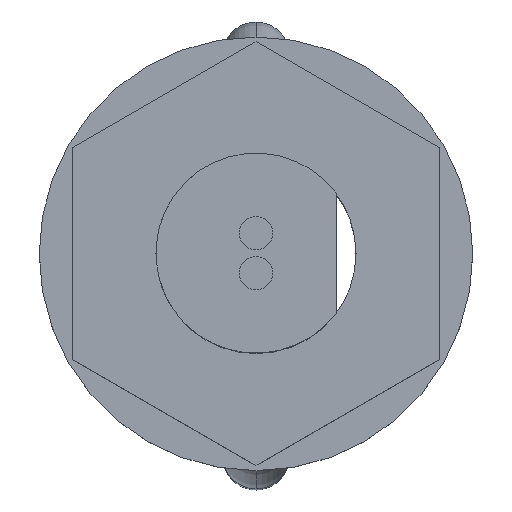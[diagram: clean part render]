
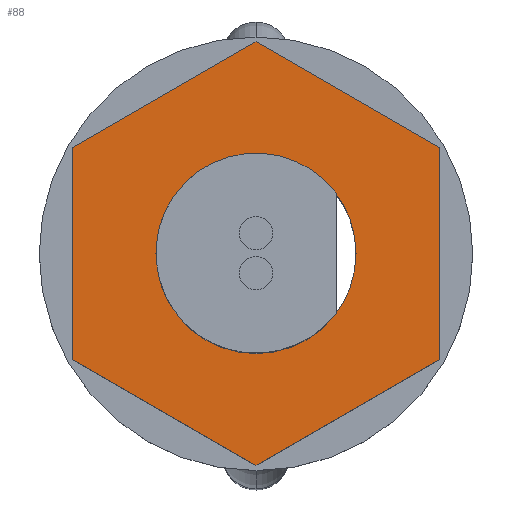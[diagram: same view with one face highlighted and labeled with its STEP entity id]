
A CAD part, top view. The second image highlights one B-rep face of the part: STEP entity #88.
In plain terms, the highlighted planar face has unit normal (0, 0, 1) as drawn and (-1, 0, 0) by its records, which use the part's own axes.
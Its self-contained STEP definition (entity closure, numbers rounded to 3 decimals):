
#74 = VERTEX_POINT ( 'NONE', #701 ) ;
#78 = EDGE_CURVE ( 'NONE', #83, #74, #694, .T. ) ;
#83 = VERTEX_POINT ( 'NONE', #684 ) ;
#87 = EDGE_LOOP ( 'NONE', ( #91, #90, #485, #488, #491, #494 ) ) ;
#88 = ADVANCED_FACE ( 'NONE', ( #745, #744 ), #743, .F. ) ;
#90 = ORIENTED_EDGE ( 'NONE', *, *, #483, .T. ) ;
#91 = ORIENTED_EDGE ( 'NONE', *, *, #94, .T. ) ;
#94 = EDGE_CURVE ( 'NONE', #95, #137, #729, .T. ) ;
#95 = VERTEX_POINT ( 'NONE', #725 ) ;
#137 = VERTEX_POINT ( 'NONE', #849 ) ;
#483 = EDGE_CURVE ( 'NONE', #137, #484, #1432, .T. ) ;
#484 = VERTEX_POINT ( 'NONE', #1428 ) ;
#485 = ORIENTED_EDGE ( 'NONE', *, *, #486, .T. ) ;
#486 = EDGE_CURVE ( 'NONE', #484, #487, #1427, .T. ) ;
#487 = VERTEX_POINT ( 'NONE', #1423 ) ;
#488 = ORIENTED_EDGE ( 'NONE', *, *, #489, .T. ) ;
#489 = EDGE_CURVE ( 'NONE', #487, #490, #1422, .T. ) ;
#490 = VERTEX_POINT ( 'NONE', #1418 ) ;
#491 = ORIENTED_EDGE ( 'NONE', *, *, #492, .T. ) ;
#492 = EDGE_CURVE ( 'NONE', #490, #493, #1417, .T. ) ;
#493 = VERTEX_POINT ( 'NONE', #1413 ) ;
#494 = ORIENTED_EDGE ( 'NONE', *, *, #495, .T. ) ;
#495 = EDGE_CURVE ( 'NONE', #493, #95, #1412, .T. ) ;
#496 = EDGE_LOOP ( 'NONE', ( #497, #552 ) ) ;
#497 = ORIENTED_EDGE ( 'NONE', *, *, #78, .F. ) ;
#552 = ORIENTED_EDGE ( 'NONE', *, *, #553, .F. ) ;
#553 = EDGE_CURVE ( 'NONE', #74, #83, #1516, .T. ) ;
#684 = CARTESIAN_POINT ( 'NONE',  ( 3.5, 1.5, 0. ) ) ;
#686 = DIRECTION ( 'NONE',  ( 0., -1., 0. ) ) ;
#687 = DIRECTION ( 'NONE',  ( -1., 0., 0. ) ) ;
#688 = CARTESIAN_POINT ( 'NONE',  ( 3.5, 0., 0. ) ) ;
#689 = AXIS2_PLACEMENT_3D ( 'NONE', #688, #687, #686 ) ;
#694 = CIRCLE ( 'NONE', #689, 1.5 ) ;
#701 = CARTESIAN_POINT ( 'NONE',  ( 3.5, -1.5, 0. ) ) ;
#725 = CARTESIAN_POINT ( 'NONE',  ( 3.5, 1.588, 2.75 ) ) ;
#726 = DIRECTION ( 'NONE',  ( 0., 0.5, -0.866 ) ) ;
#727 = VECTOR ( 'NONE', #726, 1000. ) ;
#728 = CARTESIAN_POINT ( 'NONE',  ( 3.5, 1.588, 2.75 ) ) ;
#729 = LINE ( 'NONE', #728, #727 ) ;
#739 = DIRECTION ( 'NONE',  ( 0., 1., 0. ) ) ;
#740 = DIRECTION ( 'NONE',  ( 1., 0., 0. ) ) ;
#741 = CARTESIAN_POINT ( 'NONE',  ( 3.5, 0., 5.5 ) ) ;
#742 = AXIS2_PLACEMENT_3D ( 'NONE', #741, #740, #739 ) ;
#743 = PLANE ( 'NONE',  #742 ) ;
#744 = FACE_BOUND ( 'NONE', #496, .T. ) ;
#745 = FACE_OUTER_BOUND ( 'NONE', #87, .T. ) ;
#849 = CARTESIAN_POINT ( 'NONE',  ( 3.5, 3.175, 0. ) ) ;
#1409 = DIRECTION ( 'NONE',  ( 0., 1., 0. ) ) ;
#1410 = VECTOR ( 'NONE', #1409, 1000. ) ;
#1411 = CARTESIAN_POINT ( 'NONE',  ( 3.5, -1.588, 2.75 ) ) ;
#1412 = LINE ( 'NONE', #1411, #1410 ) ;
#1413 = CARTESIAN_POINT ( 'NONE',  ( 3.5, -1.588, 2.75 ) ) ;
#1414 = DIRECTION ( 'NONE',  ( 0., 0.5, 0.866 ) ) ;
#1415 = VECTOR ( 'NONE', #1414, 1000. ) ;
#1416 = CARTESIAN_POINT ( 'NONE',  ( 3.5, -3.175, 0. ) ) ;
#1417 = LINE ( 'NONE', #1416, #1415 ) ;
#1418 = CARTESIAN_POINT ( 'NONE',  ( 3.5, -3.175, 0. ) ) ;
#1419 = DIRECTION ( 'NONE',  ( 0., -0.5, 0.866 ) ) ;
#1420 = VECTOR ( 'NONE', #1419, 1000. ) ;
#1421 = CARTESIAN_POINT ( 'NONE',  ( 3.5, -1.588, -2.75 ) ) ;
#1422 = LINE ( 'NONE', #1421, #1420 ) ;
#1423 = CARTESIAN_POINT ( 'NONE',  ( 3.5, -1.588, -2.75 ) ) ;
#1424 = DIRECTION ( 'NONE',  ( 0., -1., 0. ) ) ;
#1425 = VECTOR ( 'NONE', #1424, 1000. ) ;
#1426 = CARTESIAN_POINT ( 'NONE',  ( 3.5, 1.588, -2.75 ) ) ;
#1427 = LINE ( 'NONE', #1426, #1425 ) ;
#1428 = CARTESIAN_POINT ( 'NONE',  ( 3.5, 1.588, -2.75 ) ) ;
#1429 = DIRECTION ( 'NONE',  ( 0., -0.5, -0.866 ) ) ;
#1430 = VECTOR ( 'NONE', #1429, 1000. ) ;
#1431 = CARTESIAN_POINT ( 'NONE',  ( 3.5, 3.175, 0. ) ) ;
#1432 = LINE ( 'NONE', #1431, #1430 ) ;
#1512 = DIRECTION ( 'NONE',  ( 0., -1., 0. ) ) ;
#1513 = DIRECTION ( 'NONE',  ( -1., 0., 0. ) ) ;
#1514 = CARTESIAN_POINT ( 'NONE',  ( 3.5, 0., 0. ) ) ;
#1515 = AXIS2_PLACEMENT_3D ( 'NONE', #1514, #1513, #1512 ) ;
#1516 = CIRCLE ( 'NONE', #1515, 1.5 ) ;
